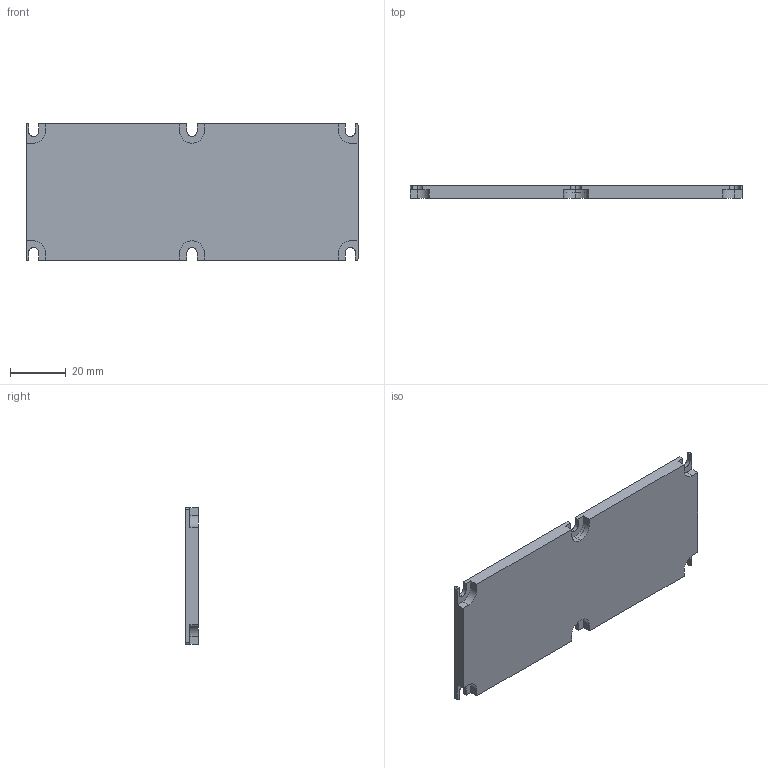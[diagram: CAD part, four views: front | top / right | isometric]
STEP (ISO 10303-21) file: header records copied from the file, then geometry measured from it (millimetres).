
FILE_DESCRIPTION (( 'STEP AP203' ), '1' );
FILE_NAME ('new haptic bottom plate rev 4.STEP', '2014-09-11T01:57:57', ( 'ikim@hotmail.com' ), ( '' ), 'SwSTEP 2.0', 'SolidWorks 2003240', '' );
FILE_SCHEMA (( 'CONFIG_CONTROL_DESIGN' ));
Length unit declared in the file: millimetre
Products named in the file (1): new haptic bottom plate rev 4
Bounding box: 119 x 4.5 x 49 mm (x, y, z)
Volume: 13235.4 mm3; surface area: 13889.6 mm2
Topology: 1 solids, 1 shells, 96 faces, 279 edges, 186 vertices
Faces by surface type: plane 57, cylinder 39
Entity records: 3258 total; most frequent: CARTESIAN_POINT 562, ORIENTED_EDGE 558, DIRECTION 551, EDGE_CURVE 279, VECTOR 201, LINE 201, VERTEX_POINT 186, AXIS2_PLACEMENT_3D 175
